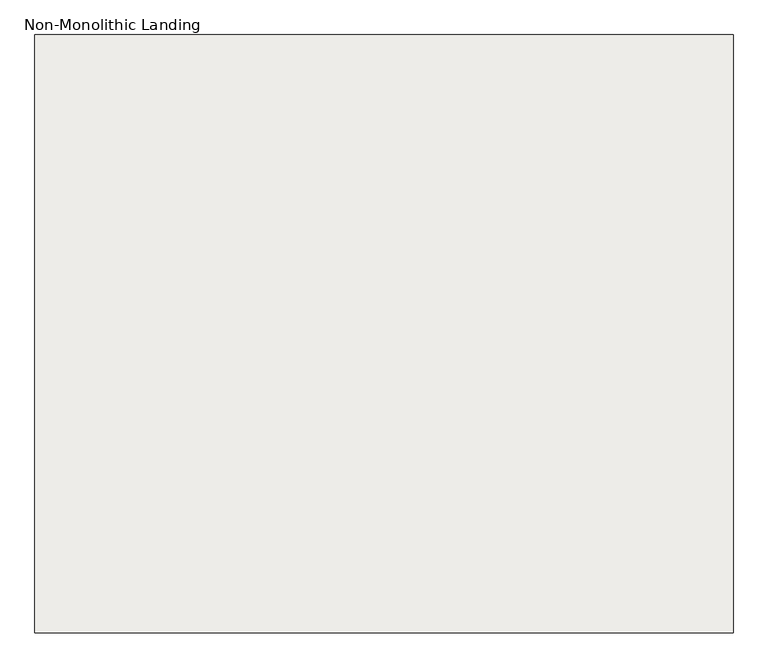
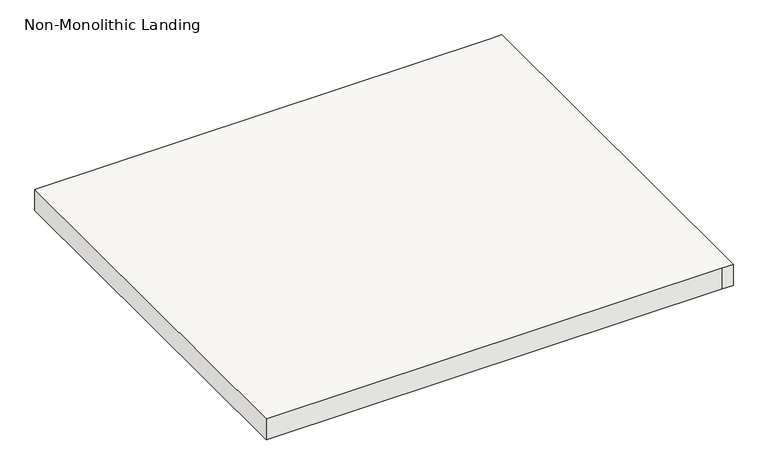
"""IFC4 building model written with IfcOpenShell, lengths in millimetres: slab geometry, Non-Monolithic Landing."""

from ifc_helpers import new_model, si_unit, frame, origin, place, context, project, spatial, polyline, outline, extrude, source, transform, mapped, element, save


def non_monolithic_landing_adae645f(model_context):
    return source(origin(), model_context, "Body", "SweptSolid", [
        extrude(outline(polyline([(5276.9721922, 23789.1406645), (6318.3721922, 23789.1406645), (6343.7721922, 23789.1406645), (6343.7721922, 22874.7406645), (6318.3721922, 22874.7406645), (5276.9721922, 22874.7406645), (5276.9721922, 23789.1406645)])), frame((0.0, 0.0, 2069.5478261), z_axis=(0.0, 0.0, 1.0), x_axis=(1.0, 0.0, 0.0)), (0.0, 0.0, 1.0), 50.8),
    ])


if __name__ == "__main__":
    model = new_model("IFC4")
    model_context = context("Model", 3, world=origin())
    ifc_project = project(units=[si_unit("LENGTHUNIT", "METRE", prefix="MILLI")], contexts=[model_context])
    site = spatial("IfcSite", under=ifc_project)
    building = spatial("IfcBuilding", under=site)
    placement = place(None, origin())
    non_monolithic_landing_shape = non_monolithic_landing_adae645f(model_context)
    element("IfcSlab", 1, ObjectType="Non-Monolithic Landing", at=placement, inside=building, context=model_context, shape_type="MappedRepresentation", body=[
        mapped(non_monolithic_landing_shape, transform((0.0, 0.0, 0.0), x_axis=(1.0, 0.0, 0.0), y_axis=(0.0, 1.0, 0.0), z_axis=(0.0, 0.0, 1.0))),
    ])
    save(model, "model.ifc")
